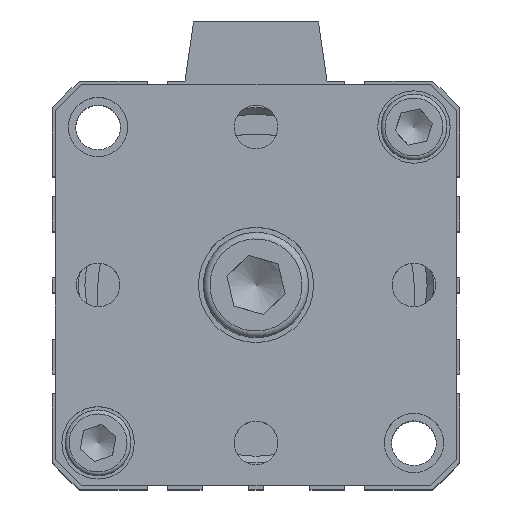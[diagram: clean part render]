
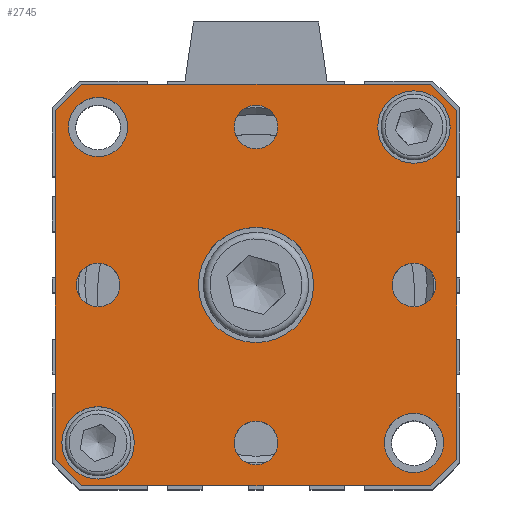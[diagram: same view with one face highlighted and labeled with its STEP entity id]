
A CAD part, top view. The second image highlights one B-rep face of the part: STEP entity #2745.
In plain terms, the highlighted planar face has unit normal (0, 0, 1).
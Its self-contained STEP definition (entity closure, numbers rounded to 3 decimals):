
#365=CARTESIAN_POINT('',(-37.557,28.294,91.6));
#366=VERTEX_POINT('',#365);
#367=CARTESIAN_POINT('',(-33.557,32.294,91.6));
#368=VERTEX_POINT('',#367);
#369=CARTESIAN_POINT('',(-37.557,28.294,91.6));
#370=DIRECTION('',(0.707,0.707,0.0));
#371=VECTOR('',#370,5.657);
#372=LINE('',#369,#371);
#373=EDGE_CURVE('',#366,#368,#372,.T.);
#417=CARTESIAN_POINT('',(19.443,32.294,91.6));
#418=VERTEX_POINT('',#417);
#419=CARTESIAN_POINT('',(-33.557,32.294,91.6));
#420=DIRECTION('',(1.0,0.0,0.0));
#421=VECTOR('',#420,53.);
#422=LINE('',#419,#421);
#423=EDGE_CURVE('',#368,#418,#422,.T.);
#440=CARTESIAN_POINT('',(23.443,28.294,91.6));
#441=VERTEX_POINT('',#440);
#442=CARTESIAN_POINT('',(19.443,32.294,91.6));
#443=DIRECTION('',(0.707,-0.707,0.0));
#444=VECTOR('',#443,5.657);
#445=LINE('',#442,#444);
#446=EDGE_CURVE('',#418,#441,#445,.T.);
#464=CARTESIAN_POINT('',(23.443,-24.706,91.6));
#465=VERTEX_POINT('',#464);
#466=CARTESIAN_POINT('',(19.443,-28.706,91.6));
#467=VERTEX_POINT('',#466);
#468=CARTESIAN_POINT('',(23.443,-24.706,91.6));
#469=DIRECTION('',(-0.707,-0.707,0.0));
#470=VECTOR('',#469,5.657);
#471=LINE('',#468,#470);
#472=EDGE_CURVE('',#465,#467,#471,.T.);
#496=CARTESIAN_POINT('',(-33.557,-28.706,91.6));
#497=VERTEX_POINT('',#496);
#498=CARTESIAN_POINT('',(19.443,-28.706,91.6));
#499=DIRECTION('',(-1.0,0.0,0.0));
#500=VECTOR('',#499,53.);
#501=LINE('',#498,#500);
#502=EDGE_CURVE('',#467,#497,#501,.T.);
#519=CARTESIAN_POINT('',(-37.557,-24.706,91.6));
#520=VERTEX_POINT('',#519);
#521=CARTESIAN_POINT('',(-33.557,-28.706,91.6));
#522=DIRECTION('',(-0.707,0.707,0.0));
#523=VECTOR('',#522,5.657);
#524=LINE('',#521,#523);
#525=EDGE_CURVE('',#497,#520,#524,.T.);
#592=CARTESIAN_POINT('',(1.693,1.794,91.6));
#593=VERTEX_POINT('',#592);
#594=CARTESIAN_POINT('',(-7.057,1.794,91.6));
#595=DIRECTION('',(0.0,0.0,-1.0));
#596=DIRECTION('',(1.0,0.0,0.0));
#597=AXIS2_PLACEMENT_3D('',#594,#595,#596);
#598=CIRCLE('',#597,8.75);
#599=EDGE_CURVE('',#593,#593,#598,.T.);
#711=CARTESIAN_POINT('',(-25.557,-22.206,91.6));
#712=VERTEX_POINT('',#711);
#713=CARTESIAN_POINT('',(-31.057,-22.206,91.6));
#714=DIRECTION('',(0.0,0.0,-1.0));
#715=DIRECTION('',(1.0,0.0,0.0));
#716=AXIS2_PLACEMENT_3D('',#713,#714,#715);
#717=CIRCLE('',#716,5.5);
#718=EDGE_CURVE('',#712,#712,#717,.T.);
#813=CARTESIAN_POINT('',(22.443,25.794,91.6));
#814=VERTEX_POINT('',#813);
#815=CARTESIAN_POINT('',(16.943,25.794,91.6));
#816=DIRECTION('',(0.0,0.0,-1.0));
#817=DIRECTION('',(1.0,0.0,0.0));
#818=AXIS2_PLACEMENT_3D('',#815,#816,#817);
#819=CIRCLE('',#818,5.5);
#820=EDGE_CURVE('',#814,#814,#819,.T.);
#890=CARTESIAN_POINT('',(20.266,1.794,91.6));
#891=VERTEX_POINT('',#890);
#892=CARTESIAN_POINT('',(16.943,1.794,91.6));
#893=DIRECTION('',(0.0,0.0,-1.0));
#894=DIRECTION('',(1.0,0.0,0.0));
#895=AXIS2_PLACEMENT_3D('',#892,#893,#894);
#896=CIRCLE('',#895,3.324);
#897=EDGE_CURVE('',#891,#891,#896,.T.);
#931=CARTESIAN_POINT('',(-3.734,-22.206,91.6));
#932=VERTEX_POINT('',#931);
#933=CARTESIAN_POINT('',(-7.057,-22.206,91.6));
#934=DIRECTION('',(0.0,0.0,-1.0));
#935=DIRECTION('',(1.0,0.0,0.0));
#936=AXIS2_PLACEMENT_3D('',#933,#934,#935);
#937=CIRCLE('',#936,3.324);
#938=EDGE_CURVE('',#932,#932,#937,.T.);
#972=CARTESIAN_POINT('',(-27.734,1.794,91.6));
#973=VERTEX_POINT('',#972);
#974=CARTESIAN_POINT('',(-31.057,1.794,91.6));
#975=DIRECTION('',(0.0,0.0,-1.0));
#976=DIRECTION('',(1.0,0.0,0.0));
#977=AXIS2_PLACEMENT_3D('',#974,#975,#976);
#978=CIRCLE('',#977,3.324);
#979=EDGE_CURVE('',#973,#973,#978,.T.);
#1013=CARTESIAN_POINT('',(-3.734,25.794,91.6));
#1014=VERTEX_POINT('',#1013);
#1015=CARTESIAN_POINT('',(-7.057,25.794,91.6));
#1016=DIRECTION('',(0.0,0.0,-1.0));
#1017=DIRECTION('',(1.0,0.0,0.0));
#1018=AXIS2_PLACEMENT_3D('',#1015,#1016,#1017);
#1019=CIRCLE('',#1018,3.324);
#1020=EDGE_CURVE('',#1014,#1014,#1019,.T.);
#2634=CARTESIAN_POINT('',(21.443,-22.206,91.6));
#2635=VERTEX_POINT('',#2634);
#2636=CARTESIAN_POINT('',(16.943,-22.206,91.6));
#2637=DIRECTION('',(0.0,0.0,-1.0));
#2638=DIRECTION('',(-1.0,0.0,0.0));
#2639=AXIS2_PLACEMENT_3D('',#2636,#2637,#2638);
#2640=CIRCLE('',#2639,4.5);
#2641=EDGE_CURVE('',#2635,#2635,#2640,.T.);
#2654=CARTESIAN_POINT('',(-26.557,25.794,91.6));
#2655=VERTEX_POINT('',#2654);
#2656=CARTESIAN_POINT('',(-31.057,25.794,91.6));
#2657=DIRECTION('',(0.0,0.0,-1.0));
#2658=DIRECTION('',(-1.0,0.0,0.0));
#2659=AXIS2_PLACEMENT_3D('',#2656,#2657,#2658);
#2660=CIRCLE('',#2659,4.5);
#2661=EDGE_CURVE('',#2655,#2655,#2660,.T.);
#2675=CARTESIAN_POINT('',(23.443,28.294,91.6));
#2676=DIRECTION('',(0.0,-1.0,0.0));
#2677=VECTOR('',#2676,53.);
#2678=LINE('',#2675,#2677);
#2679=EDGE_CURVE('',#441,#465,#2678,.T.);
#2694=CARTESIAN_POINT('',(-37.557,-24.706,91.6));
#2695=DIRECTION('',(0.0,1.0,0.0));
#2696=VECTOR('',#2695,53.);
#2697=LINE('',#2694,#2696);
#2698=EDGE_CURVE('',#520,#366,#2697,.T.);
#2703=CARTESIAN_POINT('',(-7.057,1.794,91.6));
#2704=DIRECTION('',(0.0,0.0,1.0));
#2705=DIRECTION('',(1.0,0.0,0.0));
#2706=AXIS2_PLACEMENT_3D('',#2703,#2704,#2705);
#2707=PLANE('',#2706);
#2708=ORIENTED_EDGE('',*,*,#373,.F.);
#2709=ORIENTED_EDGE('',*,*,#2698,.F.);
#2710=ORIENTED_EDGE('',*,*,#525,.F.);
#2711=ORIENTED_EDGE('',*,*,#502,.F.);
#2712=ORIENTED_EDGE('',*,*,#472,.F.);
#2713=ORIENTED_EDGE('',*,*,#2679,.F.);
#2714=ORIENTED_EDGE('',*,*,#446,.F.);
#2715=ORIENTED_EDGE('',*,*,#423,.F.);
#2716=EDGE_LOOP('',(#2708,#2709,#2710,#2711,#2712,#2713,#2714,#2715));
#2717=FACE_OUTER_BOUND('',#2716,.T.);
#2718=ORIENTED_EDGE('',*,*,#599,.T.);
#2719=EDGE_LOOP('',(#2718));
#2720=FACE_BOUND('',#2719,.T.);
#2721=ORIENTED_EDGE('',*,*,#718,.T.);
#2722=EDGE_LOOP('',(#2721));
#2723=FACE_BOUND('',#2722,.T.);
#2724=ORIENTED_EDGE('',*,*,#820,.T.);
#2725=EDGE_LOOP('',(#2724));
#2726=FACE_BOUND('',#2725,.T.);
#2727=ORIENTED_EDGE('',*,*,#897,.T.);
#2728=EDGE_LOOP('',(#2727));
#2729=FACE_BOUND('',#2728,.T.);
#2730=ORIENTED_EDGE('',*,*,#938,.T.);
#2731=EDGE_LOOP('',(#2730));
#2732=FACE_BOUND('',#2731,.T.);
#2733=ORIENTED_EDGE('',*,*,#979,.T.);
#2734=EDGE_LOOP('',(#2733));
#2735=FACE_BOUND('',#2734,.T.);
#2736=ORIENTED_EDGE('',*,*,#1020,.T.);
#2737=EDGE_LOOP('',(#2736));
#2738=FACE_BOUND('',#2737,.T.);
#2739=ORIENTED_EDGE('',*,*,#2641,.T.);
#2740=EDGE_LOOP('',(#2739));
#2741=FACE_BOUND('',#2740,.T.);
#2742=ORIENTED_EDGE('',*,*,#2661,.T.);
#2743=EDGE_LOOP('',(#2742));
#2744=FACE_BOUND('',#2743,.T.);
#2745=ADVANCED_FACE('',(#2717,#2720,#2723,#2726,#2729,#2732,#2735,#2738,#2741,#2744),#2707,.T.);
